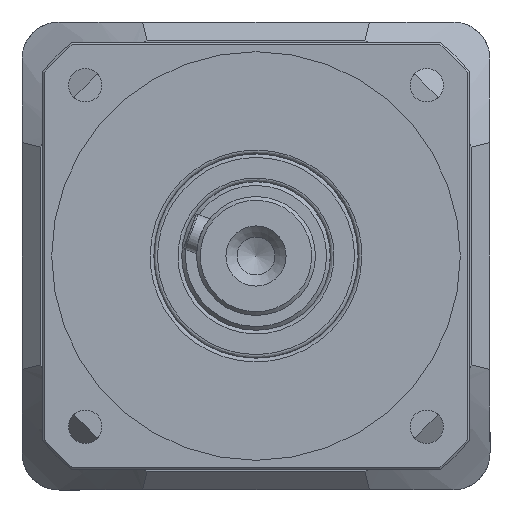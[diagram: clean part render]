
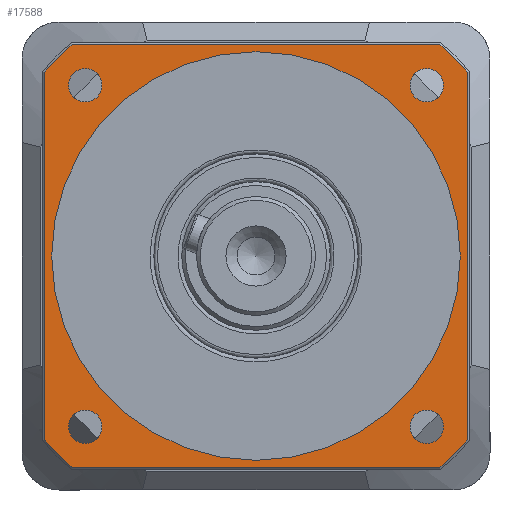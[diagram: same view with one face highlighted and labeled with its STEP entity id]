
A CAD part, front view. The second image highlights one B-rep face of the part: STEP entity #17588.
In plain terms, the highlighted planar face has unit normal (0, -1, 0) as drawn and (0, 0, 1) by its records, which use the part's own axes.
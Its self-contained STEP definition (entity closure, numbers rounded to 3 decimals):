
#192 = PLANE ( 'NONE',  #16450 ) ;
#342 = VERTEX_POINT ( 'NONE', #33436 ) ;
#825 = AXIS2_PLACEMENT_3D ( 'NONE', #17815, #13077, #8389 ) ;
#1041 = EDGE_LOOP ( 'NONE', ( #14060 ) ) ;
#1269 = VERTEX_POINT ( 'NONE', #34403 ) ;
#2181 = DIRECTION ( 'NONE',  ( 1., 0., 0. ) ) ;
#2206 = CARTESIAN_POINT ( 'NONE',  ( 0., 0., 45. ) ) ;
#2324 = EDGE_LOOP ( 'NONE', ( #42377 ) ) ;
#2399 = EDGE_CURVE ( 'NONE', #29961, #29961, #14105, .T. ) ;
#2813 = VERTEX_POINT ( 'NONE', #43974 ) ;
#2948 = ORIENTED_EDGE ( 'NONE', *, *, #38415, .F. ) ;
#3473 = CARTESIAN_POINT ( 'NONE',  ( 0., 0., 45. ) ) ;
#4575 = CARTESIAN_POINT ( 'NONE',  ( -57.5, 57., 45. ) ) ;
#4792 = EDGE_CURVE ( 'NONE', #29251, #26213, #7732, .T. ) ;
#5186 = ORIENTED_EDGE ( 'NONE', *, *, #28066, .F. ) ;
#5650 = DIRECTION ( 'NONE',  ( 1., 0., 0. ) ) ;
#6715 = AXIS2_PLACEMENT_3D ( 'NONE', #43329, #38640, #33911 ) ;
#6761 = CIRCLE ( 'NONE', #825, 75.5 ) ;
#6817 = CARTESIAN_POINT ( 'NONE',  ( -57., 49.51, 45. ) ) ;
#6889 = DIRECTION ( 'NONE',  ( 0., 0., 1. ) ) ;
#7732 = CIRCLE ( 'NONE', #9318, 75.5 ) ;
#8389 = DIRECTION ( 'NONE',  ( -1., 0., 0. ) ) ;
#9058 = EDGE_LOOP ( 'NONE', ( #29041 ) ) ;
#9106 = EDGE_CURVE ( 'NONE', #25560, #25560, #19208, .T. ) ;
#9318 = AXIS2_PLACEMENT_3D ( 'NONE', #45357, #40660, #35957 ) ;
#9333 = VERTEX_POINT ( 'NONE', #36194 ) ;
#9392 = CIRCLE ( 'NONE', #33553, 75.5 ) ;
#9485 = EDGE_CURVE ( 'NONE', #14148, #29251, #33133, .T. ) ;
#10350 = DIRECTION ( 'NONE',  ( 0., 0., 1. ) ) ;
#11597 = CARTESIAN_POINT ( 'NONE',  ( 45.962, 45.962, 45. ) ) ;
#12638 = DIRECTION ( 'NONE',  ( 1., 0., 0. ) ) ;
#12998 = EDGE_CURVE ( 'NONE', #342, #22496, #38664, .T. ) ;
#13077 = DIRECTION ( 'NONE',  ( 0., 0., -1. ) ) ;
#14060 = ORIENTED_EDGE ( 'NONE', *, *, #42453, .F. ) ;
#14105 = CIRCLE ( 'NONE', #33142, 4.5 ) ;
#14148 = VERTEX_POINT ( 'NONE', #31020 ) ;
#14618 = ORIENTED_EDGE ( 'NONE', *, *, #25656, .F. ) ;
#15051 = CARTESIAN_POINT ( 'NONE',  ( -45.962, 45.962, 45. ) ) ;
#15263 = FACE_OUTER_BOUND ( 'NONE', #29159, .T. ) ;
#16003 = DIRECTION ( 'NONE',  ( -1., 0., 0. ) ) ;
#16450 = AXIS2_PLACEMENT_3D ( 'NONE', #36653, #31961, #27267 ) ;
#16649 = EDGE_CURVE ( 'NONE', #22496, #9333, #6761, .T. ) ;
#17359 = DIRECTION ( 'NONE',  ( 0., 0., 1. ) ) ;
#17588 = ADVANCED_FACE ( 'NONE', ( #15263, #21219, #22402, #23551, #25932, #28276 ), #192, .F. ) ;
#17752 = ORIENTED_EDGE ( 'NONE', *, *, #2399, .F. ) ;
#17815 = CARTESIAN_POINT ( 'NONE',  ( 0., 0., 45. ) ) ;
#18697 = LINE ( 'NONE', #4575, #36192 ) ;
#19208 = CIRCLE ( 'NONE', #23075, 55. ) ;
#19376 = ORIENTED_EDGE ( 'NONE', *, *, #9485, .F. ) ;
#19855 = CARTESIAN_POINT ( 'NONE',  ( 57., -49.51, 45. ) ) ;
#20155 = VERTEX_POINT ( 'NONE', #31653 ) ;
#20721 = DIRECTION ( 'NONE',  ( 0., 0., 1. ) ) ;
#20884 = CARTESIAN_POINT ( 'NONE',  ( -55., 0., 45. ) ) ;
#21219 = FACE_BOUND ( 'NONE', #2324, .T. ) ;
#21783 = CIRCLE ( 'NONE', #35435, 4.5 ) ;
#22066 = CARTESIAN_POINT ( 'NONE',  ( -45.962, -45.962, 45. ) ) ;
#22402 = FACE_BOUND ( 'NONE', #35275, .T. ) ;
#22496 = VERTEX_POINT ( 'NONE', #6817 ) ;
#23075 = AXIS2_PLACEMENT_3D ( 'NONE', #25401, #20721, #16003 ) ;
#23551 = FACE_BOUND ( 'NONE', #1041, .T. ) ;
#23778 = DIRECTION ( 'NONE',  ( 0., -1., 0. ) ) ;
#24020 = ORIENTED_EDGE ( 'NONE', *, *, #36847, .F. ) ;
#25276 = ORIENTED_EDGE ( 'NONE', *, *, #12998, .F. ) ;
#25293 = CARTESIAN_POINT ( 'NONE',  ( 50.462, 45.962, 45. ) ) ;
#25401 = CARTESIAN_POINT ( 'NONE',  ( 0., 0., 45. ) ) ;
#25560 = VERTEX_POINT ( 'NONE', #20884 ) ;
#25656 = EDGE_CURVE ( 'NONE', #9333, #20155, #18697, .T. ) ;
#25667 = EDGE_CURVE ( 'NONE', #1269, #342, #36952, .T. ) ;
#25932 = FACE_BOUND ( 'NONE', #29841, .T. ) ;
#26213 = VERTEX_POINT ( 'NONE', #31531 ) ;
#27267 = DIRECTION ( 'NONE',  ( -1., 0., 0. ) ) ;
#27434 = CIRCLE ( 'NONE', #6715, 4.5 ) ;
#27982 = CARTESIAN_POINT ( 'NONE',  ( 50.462, -45.962, 45. ) ) ;
#28066 = EDGE_CURVE ( 'NONE', #20155, #14148, #9392, .T. ) ;
#28276 = FACE_BOUND ( 'NONE', #9058, .T. ) ;
#28459 = CARTESIAN_POINT ( 'NONE',  ( 57., 57.5, 45. ) ) ;
#29041 = ORIENTED_EDGE ( 'NONE', *, *, #9106, .F. ) ;
#29159 = EDGE_LOOP ( 'NONE', ( #38836, #19376, #5186, #14618, #35533, #25276, #37901, #2948 ) ) ;
#29251 = VERTEX_POINT ( 'NONE', #19855 ) ;
#29261 = DIRECTION ( 'NONE',  ( 0., 1., 0. ) ) ;
#29841 = EDGE_LOOP ( 'NONE', ( #17752 ) ) ;
#29961 = VERTEX_POINT ( 'NONE', #25293 ) ;
#30588 = EDGE_CURVE ( 'NONE', #32669, #32669, #27434, .T. ) ;
#31020 = CARTESIAN_POINT ( 'NONE',  ( 57., 49.51, 45. ) ) ;
#31145 = AXIS2_PLACEMENT_3D ( 'NONE', #15051, #10350, #5650 ) ;
#31531 = CARTESIAN_POINT ( 'NONE',  ( 49.51, -57., 45. ) ) ;
#31653 = CARTESIAN_POINT ( 'NONE',  ( 49.51, 57., 45. ) ) ;
#31961 = DIRECTION ( 'NONE',  ( 0., 0., -1. ) ) ;
#32669 = VERTEX_POINT ( 'NONE', #27982 ) ;
#32931 = CARTESIAN_POINT ( 'NONE',  ( -41.462, -45.962, 45. ) ) ;
#33133 = LINE ( 'NONE', #28459, #36369 ) ;
#33142 = AXIS2_PLACEMENT_3D ( 'NONE', #11597, #6889, #2181 ) ;
#33436 = CARTESIAN_POINT ( 'NONE',  ( -57., -49.51, 45. ) ) ;
#33553 = AXIS2_PLACEMENT_3D ( 'NONE', #2206, #43371, #38682 ) ;
#33753 = DIRECTION ( 'NONE',  ( -1., 0., 0. ) ) ;
#33911 = DIRECTION ( 'NONE',  ( 1., 0., 0. ) ) ;
#33932 = CARTESIAN_POINT ( 'NONE',  ( -57., 57.5, 45. ) ) ;
#34403 = CARTESIAN_POINT ( 'NONE',  ( -49.51, -57., 45. ) ) ;
#34578 = VECTOR ( 'NONE', #33753, 1000. ) ;
#35275 = EDGE_LOOP ( 'NONE', ( #24020 ) ) ;
#35435 = AXIS2_PLACEMENT_3D ( 'NONE', #22066, #17359, #12638 ) ;
#35533 = ORIENTED_EDGE ( 'NONE', *, *, #16649, .F. ) ;
#35957 = DIRECTION ( 'NONE',  ( -1., 0., 0. ) ) ;
#36192 = VECTOR ( 'NONE', #45726, 1000. ) ;
#36194 = CARTESIAN_POINT ( 'NONE',  ( -49.51, 57., 45. ) ) ;
#36369 = VECTOR ( 'NONE', #23778, 1000. ) ;
#36653 = CARTESIAN_POINT ( 'NONE',  ( -57.5, 57.5, 45. ) ) ;
#36847 = EDGE_CURVE ( 'NONE', #37628, #37628, #21783, .T. ) ;
#36952 = CIRCLE ( 'NONE', #38578, 75.5 ) ;
#36966 = CIRCLE ( 'NONE', #31145, 4.5 ) ;
#37628 = VERTEX_POINT ( 'NONE', #32931 ) ;
#37901 = ORIENTED_EDGE ( 'NONE', *, *, #25667, .F. ) ;
#38415 = EDGE_CURVE ( 'NONE', #26213, #1269, #43166, .T. ) ;
#38477 = CARTESIAN_POINT ( 'NONE',  ( -57.5, -57., 45. ) ) ;
#38578 = AXIS2_PLACEMENT_3D ( 'NONE', #3473, #44618, #39935 ) ;
#38640 = DIRECTION ( 'NONE',  ( 0., 0., 1. ) ) ;
#38664 = LINE ( 'NONE', #33932, #42965 ) ;
#38682 = DIRECTION ( 'NONE',  ( -1., 0., 0. ) ) ;
#38836 = ORIENTED_EDGE ( 'NONE', *, *, #4792, .F. ) ;
#39935 = DIRECTION ( 'NONE',  ( -1., 0., 0. ) ) ;
#40660 = DIRECTION ( 'NONE',  ( 0., 0., -1. ) ) ;
#42377 = ORIENTED_EDGE ( 'NONE', *, *, #30588, .F. ) ;
#42453 = EDGE_CURVE ( 'NONE', #2813, #2813, #36966, .T. ) ;
#42965 = VECTOR ( 'NONE', #29261, 1000. ) ;
#43166 = LINE ( 'NONE', #38477, #34578 ) ;
#43329 = CARTESIAN_POINT ( 'NONE',  ( 45.962, -45.962, 45. ) ) ;
#43371 = DIRECTION ( 'NONE',  ( 0., 0., -1. ) ) ;
#43974 = CARTESIAN_POINT ( 'NONE',  ( -41.462, 45.962, 45. ) ) ;
#44618 = DIRECTION ( 'NONE',  ( 0., 0., -1. ) ) ;
#45357 = CARTESIAN_POINT ( 'NONE',  ( 0., 0., 45. ) ) ;
#45726 = DIRECTION ( 'NONE',  ( 1., 0., 0. ) ) ;
